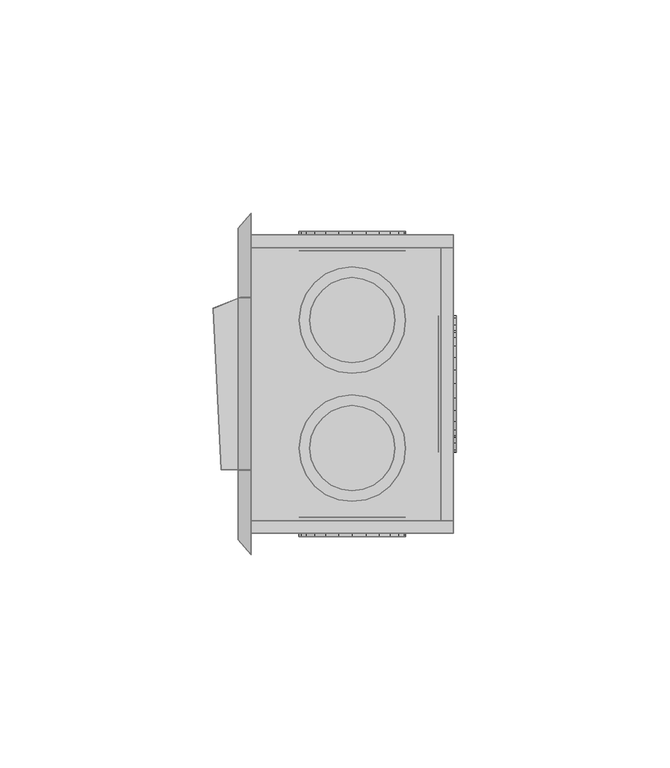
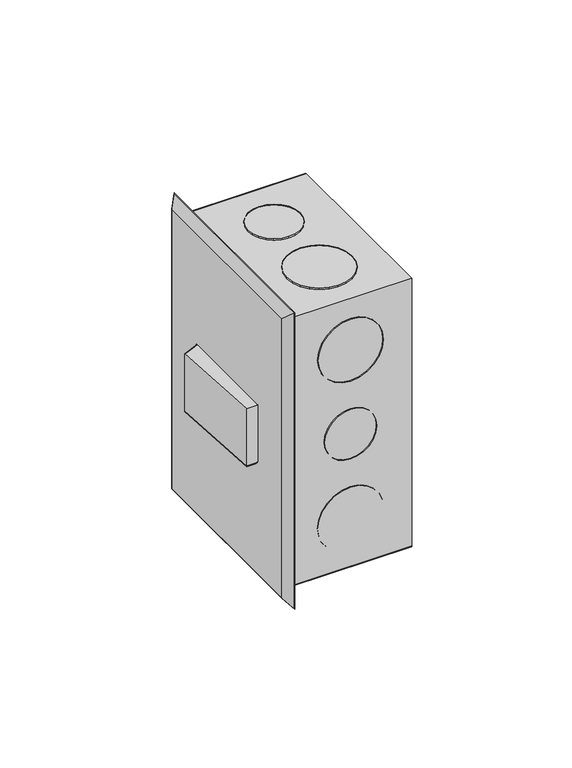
"""IFC4 building model written with IfcOpenShell, lengths in millimetres: proxy geometry,  210597 :  210597."""

from ifc_helpers import new_model, si_unit, origin, place, context, project, spatial, triangles, source, transform, mapped, element, save


def generic_models_13747dfe(model_context):
    return source(origin(), model_context, "Body", "Tessellation", [
        triangles([(12876.6000732, 15867.6000641, 1254.3000378), (12876.6000732, 15870.599881, 1148.7000154), (12876.6000732, 15867.6000641, 1145.6999805), (12876.6000732, 15870.599881, 1251.2999302), (12876.6000732, 15937.6004425, 1254.3000378), (12876.6000732, 15934.5994629, 1251.2999302), (12876.6000732, 15937.6004425, 1145.6999805), (12876.6000732, 15934.5994629, 1148.7000154), (12924.0994995, 15870.599881, 1251.2999302), (12924.0994995, 15870.599881, 1148.7000154), (12924.0994995, 15937.6004425, 1254.3000378), (12924.0994995, 15937.6004425, 1145.6999805), (12924.0994995, 15934.5994629, 1251.2999302), (12924.0994995, 15867.6000641, 1145.6999805), (12924.0994995, 15934.5994629, 1148.7000154), (12924.0994995, 15867.6000641, 1254.3000378), (12921.0996826, 15870.599881, 1251.2999302), (12921.0996826, 15934.5994629, 1148.7000154), (12921.0996826, 15870.599881, 1148.7000154), (12921.0996826, 15934.5994629, 1251.2999302), (12920.5997131, 15888.699939, 1191.9999887), (12920.5997131, 15894.5995789, 1186.0999855), (12920.5997131, 15891.2997803, 1188.6999722), (12920.5997131, 15887.1000366, 1195.8999687), (12920.5997131, 15898.4005096, 1184.5000105), (12920.5997131, 15886.6000671, 1200.0000092), (12920.5997131, 15902.6002533, 1183.9999683), (12920.5997131, 15887.1000366, 1204.0999769), (12920.5997131, 15906.7000031, 1184.5000105), (12920.5997131, 15888.699939, 1208.0000296), (12920.5997131, 15910.599765, 1186.0999855), (12920.5997131, 15891.2997803, 1211.2999735), (12920.5997131, 15913.8995636, 1188.6999722), (12920.5997131, 15894.5995789, 1213.9000328), (12920.5997131, 15916.4005737, 1191.9999887), (12920.5997131, 15898.4005096, 1215.5000078), (12920.5997131, 15918.0004761, 1195.8999687), (12920.5997131, 15902.6002533, 1215.9999773), (12920.5997131, 15918.6004395, 1200.0000092), (12920.5997131, 15906.7000031, 1215.5000078), (12920.5997131, 15918.0004761, 1204.0999769), (12920.5997131, 15910.599765, 1213.9000328), (12920.5997131, 15916.4005737, 1208.0000296), (12920.5997131, 15913.8995636, 1211.2999735), (12924.7994568, 15906.7000031, 1184.5000105), (12924.7994568, 15902.6002533, 1183.9999683), (12924.7994568, 15898.4005096, 1184.5000105), (12924.7994568, 15894.5995789, 1186.0999855), (12924.7994568, 15891.2997803, 1188.6999722), (12924.7994568, 15888.699939, 1191.9999887), (12924.7994568, 15887.1000366, 1195.8999687), (12924.7994568, 15886.6000671, 1200.0000092), (12924.7994568, 15887.1000366, 1204.0999769), (12924.7994568, 15888.699939, 1208.0000296), (12924.7994568, 15891.2997803, 1211.2999735), (12924.7994568, 15894.5995789, 1213.9000328), (12924.7994568, 15898.4005096, 1215.5000078), (12924.7994568, 15902.6002533, 1215.9999773), (12924.7994568, 15906.7000031, 1215.5000078), (12924.7994568, 15910.599765, 1213.9000328), (12924.7994568, 15913.8995636, 1211.2999735), (12924.7994568, 15916.4005737, 1208.0000296), (12924.7994568, 15918.0004761, 1204.0999769), (12924.7994568, 15918.6004395, 1200.0000092), (12924.7994568, 15918.0004761, 1195.8999687), (12924.7994568, 15916.4005737, 1191.9999887), (12924.7994568, 15913.8995636, 1188.6999722), (12924.7994568, 15910.599765, 1186.0999855), (12920.5997131, 15891.6997559, 1227.8000565), (12920.5997131, 15896.2994751, 1223.2000465), (12920.5997131, 15893.6996338, 1225.2000698), (12920.5997131, 15890.4998291, 1230.8000187), (12920.5997131, 15899.3004547, 1221.8999805), (12920.5997131, 15890.0998535, 1233.9999687), (12920.5997131, 15902.6002533, 1221.500005), (12920.5997131, 15890.4998291, 1237.2000641), (12920.5997131, 15905.800058, 1221.8999805), (12920.5997131, 15891.6997559, 1240.3000202), (12920.5997131, 15908.7998749, 1223.2000465), (12920.5997131, 15893.6996338, 1242.800013), (12920.5997131, 15911.3997162, 1225.2000698), (12920.5997131, 15913.3995941, 1227.8000565), (12920.5997131, 15896.2994751, 1244.8000362), (12920.5997131, 15899.3004547, 1246.0999569), (12920.5997131, 15914.5995209, 1230.8000187), (12920.5997131, 15902.6002533, 1246.4999325), (12920.5997131, 15915.0994904, 1233.9999687), (12920.5997131, 15905.800058, 1246.0999569), (12920.5997131, 15914.5995209, 1237.2000641), (12920.5997131, 15913.3995941, 1240.3000202), (12920.5997131, 15908.7998749, 1244.8000362), (12920.5997131, 15911.3997162, 1242.800013), (12924.7994568, 15914.5995209, 1230.8000187), (12924.7994568, 15913.3995941, 1227.8000565), (12924.7994568, 15911.3997162, 1225.2000698), (12924.7994568, 15908.7998749, 1223.2000465), (12924.7994568, 15905.800058, 1221.8999805), (12924.7994568, 15902.6002533, 1221.500005), (12924.7994568, 15899.3004547, 1221.8999805), (12924.7994568, 15896.2994751, 1223.2000465), (12924.7994568, 15893.6996338, 1225.2000698), (12924.7994568, 15891.6997559, 1227.8000565), (12924.7994568, 15890.4998291, 1230.8000187), (12924.7994568, 15890.0998535, 1233.9999687), (12924.7994568, 15890.4998291, 1237.2000641), (12924.7994568, 15891.6997559, 1240.3000202), (12924.7994568, 15893.6996338, 1242.800013), (12924.7994568, 15896.2994751, 1244.8000362), (12924.7994568, 15899.3004547, 1246.0999569), (12924.7994568, 15902.6002533, 1246.4999325), (12924.7994568, 15905.800058, 1246.0999569), (12924.7994568, 15908.7998749, 1244.8000362), (12924.7994568, 15911.3997162, 1242.800013), (12924.7994568, 15913.3995941, 1240.3000202), (12924.7994568, 15914.5995209, 1237.2000641), (12924.7994568, 15915.0994904, 1233.9999687), (12924.7994568, 15896.2994751, 1155.1999821), (12924.7994568, 15891.6997559, 1159.6999981), (12924.7994568, 15893.6996338, 1157.2000053), (12924.7994568, 15899.3004547, 1153.8999887), (12924.7994568, 15890.4998291, 1162.8000269), (12924.7994568, 15902.6002533, 1153.5000132), (12924.7994568, 15890.0998535, 1165.9999769), (12924.7994568, 15905.800058, 1153.8999887), (12924.7994568, 15890.4998291, 1169.1999996), (12924.7994568, 15908.7998749, 1155.1999821), (12924.7994568, 15891.6997559, 1172.2000345), (12924.7994568, 15911.3997162, 1157.2000053), (12924.7994568, 15893.6996338, 1174.8000212), (12924.7994568, 15913.3995941, 1159.6999981), (12924.7994568, 15896.2994751, 1176.7999718), (12924.7994568, 15914.5995209, 1162.8000269), (12924.7994568, 15899.3004547, 1178.0999651), (12924.7994568, 15902.6002533, 1178.5000134), (12924.7994568, 15915.0994904, 1165.9999769), (12924.7994568, 15914.5995209, 1169.1999996), (12924.7994568, 15905.800058, 1178.0999651), (12924.7994568, 15913.3995941, 1172.2000345), (12924.7994568, 15908.7998749, 1176.7999718), (12924.7994568, 15911.3997162, 1174.8000212), (12920.5997131, 15899.3004547, 1178.0999651), (12920.5997131, 15902.6002533, 1178.5000134), (12920.5997131, 15896.2994751, 1176.7999718), (12920.5997131, 15893.6996338, 1174.8000212), (12920.5997131, 15891.6997559, 1172.2000345), (12920.5997131, 15890.4998291, 1169.1999996), (12920.5997131, 15890.0998535, 1165.9999769), (12920.5997131, 15890.4998291, 1162.8000269), (12920.5997131, 15891.6997559, 1159.6999981), (12920.5997131, 15893.6996338, 1157.2000053), (12920.5997131, 15896.2994751, 1155.1999821), (12920.5997131, 15899.3004547, 1153.8999887), (12920.5997131, 15902.6002533, 1153.5000132), (12920.5997131, 15905.800058, 1153.8999887), (12920.5997131, 15908.7998749, 1155.1999821), (12920.5997131, 15911.3997162, 1157.2000053), (12920.5997131, 15913.3995941, 1159.6999981), (12920.5997131, 15914.5995209, 1162.8000269), (12920.5997131, 15915.0994904, 1165.9999769), (12920.5997131, 15914.5995209, 1169.1999996), (12920.5997131, 15913.3995941, 1172.2000345), (12920.5997131, 15911.3997162, 1174.8000212), (12920.5997131, 15908.7998749, 1176.7999718), (12920.5997131, 15905.800058, 1178.0999651), (12905.2994843, 15871.3998322, 1191.3000315), (12909.0004211, 15871.3998322, 1195.0000237), (12907.4005188, 15871.3998322, 1192.9000065), (12910.0003601, 15871.3998322, 1197.4000225), (12902.8996307, 15871.3998322, 1190.3000198), (12910.3003418, 15871.3998322, 1200.0000092), (12900.2997894, 15871.3998322, 1189.9999655), (12897.799942, 15871.3998322, 1190.3000198), (12910.0003601, 15871.3998322, 1202.5999958), (12909.0004211, 15871.3998322, 1204.9999947), (12895.3000946, 15871.3998322, 1191.3000315), (12907.4005188, 15871.3998322, 1207.1000118), (12893.3002167, 15871.3998322, 1192.9000065), (12891.7003143, 15871.3998322, 1195.0000237), (12905.2994843, 15871.3998322, 1208.6999868), (12890.7003754, 15871.3998322, 1197.4000225), (12902.8996307, 15871.3998322, 1209.6999985), (12890.3003998, 15871.3998322, 1200.0000092), (12900.2997894, 15871.3998322, 1209.9999802), (12890.7003754, 15871.3998322, 1202.5999958), (12897.799942, 15871.3998322, 1209.6999985), (12895.3000946, 15871.3998322, 1208.6999868), (12891.7003143, 15871.3998322, 1204.9999947), (12893.3002167, 15871.3998322, 1207.1000118), (12900.2997894, 15866.8001129, 1189.9999655), (12902.8996307, 15866.8001129, 1190.3000198), (12897.799942, 15866.8001129, 1190.3000198), (12895.3000946, 15866.8001129, 1191.3000315), (12893.3002167, 15866.8001129, 1192.9000065), (12891.7003143, 15866.8001129, 1195.0000237), (12890.7003754, 15866.8001129, 1197.4000225), (12890.3003998, 15866.8001129, 1200.0000092), (12890.7003754, 15866.8001129, 1202.5999958), (12891.7003143, 15866.8001129, 1204.9999947), (12893.3002167, 15866.8001129, 1207.1000118), (12895.3000946, 15866.8001129, 1208.6999868), (12897.799942, 15866.8001129, 1209.6999985), (12900.2997894, 15866.8001129, 1209.9999802), (12902.8996307, 15866.8001129, 1209.6999985), (12905.2994843, 15866.8001129, 1208.6999868), (12907.4005188, 15866.8001129, 1207.1000118), (12909.0004211, 15866.8001129, 1204.9999947), (12910.0003601, 15866.8001129, 1202.5999958), (12910.3003418, 15866.8001129, 1200.0000092), (12910.0003601, 15866.8001129, 1197.4000225), (12909.0004211, 15866.8001129, 1195.0000237), (12907.4005188, 15866.8001129, 1192.9000065), (12905.2994843, 15866.8001129, 1191.3000315), (12906.6005676, 15871.3998322, 1223.2000465), (12911.2002869, 15871.3998322, 1227.8000565), (12909.2004089, 15871.3998322, 1225.2000698), (12903.599588, 15871.3998322, 1221.8999805), (12912.4002136, 15871.3998322, 1230.8000187), (12912.8001892, 15871.3998322, 1233.9999687), (12900.2997894, 15871.3998322, 1221.500005), (12897.0999847, 15871.3998322, 1221.8999805), (12912.4002136, 15871.3998322, 1237.2000641), (12911.2002869, 15871.3998322, 1240.3000202), (12894.1001678, 15871.3998322, 1223.2000465), (12891.5003265, 15871.3998322, 1225.2000698), (12909.2004089, 15871.3998322, 1242.800013), (12889.5004486, 15871.3998322, 1227.8000565), (12906.6005676, 15871.3998322, 1244.8000362), (12888.3005219, 15871.3998322, 1230.8000187), (12903.599588, 15871.3998322, 1246.0999569), (12887.8005524, 15871.3998322, 1233.9999687), (12900.2997894, 15871.3998322, 1246.4999325), (12888.3005219, 15871.3998322, 1237.2000641), (12897.0999847, 15871.3998322, 1246.0999569), (12889.5004486, 15871.3998322, 1240.3000202), (12894.1001678, 15871.3998322, 1244.8000362), (12891.5003265, 15871.3998322, 1242.800013), (12900.2997894, 15866.8001129, 1221.500005), (12903.599588, 15866.8001129, 1221.8999805), (12897.0999847, 15866.8001129, 1221.8999805), (12894.1001678, 15866.8001129, 1223.2000465), (12891.5003265, 15866.8001129, 1225.2000698), (12889.5004486, 15866.8001129, 1227.8000565), (12888.3005219, 15866.8001129, 1230.8000187), (12887.8005524, 15866.8001129, 1233.9999687), (12888.3005219, 15866.8001129, 1237.2000641), (12889.5004486, 15866.8001129, 1240.3000202), (12891.5003265, 15866.8001129, 1242.800013), (12894.1001678, 15866.8001129, 1244.8000362), (12897.0999847, 15866.8001129, 1246.0999569), (12900.2997894, 15866.8001129, 1246.4999325), (12903.599588, 15866.8001129, 1246.0999569), (12906.6005676, 15866.8001129, 1244.8000362), (12909.2004089, 15866.8001129, 1242.800013), (12911.2002869, 15866.8001129, 1240.3000202), (12912.4002136, 15866.8001129, 1237.2000641), (12912.8001892, 15866.8001129, 1233.9999687), (12912.4002136, 15866.8001129, 1230.8000187), (12911.2002869, 15866.8001129, 1227.8000565), (12909.2004089, 15866.8001129, 1225.2000698), (12906.6005676, 15866.8001129, 1223.2000465), (12911.2002869, 15866.8001129, 1159.6999981), (12906.6005676, 15866.8001129, 1155.1999821), (12909.2004089, 15866.8001129, 1157.2000053), (12912.4002136, 15866.8001129, 1162.8000269), (12903.599588, 15866.8001129, 1153.8999887), (12912.8001892, 15866.8001129, 1165.9999769), (12900.2997894, 15866.8001129, 1153.5000132), (12912.4002136, 15866.8001129, 1169.1999996), (12897.0999847, 15866.8001129, 1153.8999887), (12911.2002869, 15866.8001129, 1172.2000345), (12894.1001678, 15866.8001129, 1155.1999821), (12909.2004089, 15866.8001129, 1174.8000212), (12891.5003265, 15866.8001129, 1157.2000053), (12906.6005676, 15866.8001129, 1176.7999718), (12889.5004486, 15866.8001129, 1159.6999981), (12903.599588, 15866.8001129, 1178.0999651), (12888.3005219, 15866.8001129, 1162.8000269), (12900.2997894, 15866.8001129, 1178.5000134), (12887.8005524, 15866.8001129, 1165.9999769), (12897.0999847, 15866.8001129, 1178.0999651), (12888.3005219, 15866.8001129, 1169.1999996), (12894.1001678, 15866.8001129, 1176.7999718), (12889.5004486, 15866.8001129, 1172.2000345), (12891.5003265, 15866.8001129, 1174.8000212), (12903.599588, 15871.3998322, 1178.0999651), (12900.2997894, 15871.3998322, 1178.5000134), (12897.0999847, 15871.3998322, 1178.0999651), (12894.1001678, 15871.3998322, 1176.7999718), (12891.5003265, 15871.3998322, 1174.8000212), (12889.5004486, 15871.3998322, 1172.2000345), (12888.3005219, 15871.3998322, 1169.1999996), (12887.8005524, 15871.3998322, 1165.9999769), (12888.3005219, 15871.3998322, 1162.8000269), (12889.5004486, 15871.3998322, 1159.6999981), (12891.5003265, 15871.3998322, 1157.2000053), (12894.1001678, 15871.3998322, 1155.1999821), (12897.0999847, 15871.3998322, 1153.8999887), (12900.2997894, 15871.3998322, 1153.5000132), (12903.599588, 15871.3998322, 1153.8999887), (12906.6005676, 15871.3998322, 1155.1999821), (12909.2004089, 15871.3998322, 1157.2000053), (12911.2002869, 15871.3998322, 1159.6999981), (12912.4002136, 15871.3998322, 1162.8000269), (12912.8001892, 15871.3998322, 1165.9999769), (12912.4002136, 15871.3998322, 1169.1999996), (12911.2002869, 15871.3998322, 1172.2000345), (12909.2004089, 15871.3998322, 1174.8000212), (12906.6005676, 15871.3998322, 1176.7999718), (12909.0004211, 15933.7995117, 1195.0000237), (12905.2994843, 15933.7995117, 1191.3000315), (12907.4005188, 15933.7995117, 1192.9000065), (12910.0003601, 15933.7995117, 1197.4000225), (12902.8996307, 15933.7995117, 1190.3000198), (12910.3003418, 15933.7995117, 1200.0000092), (12900.2997894, 15933.7995117, 1189.9999655), (12910.0003601, 15933.7995117, 1202.5999958), (12897.799942, 15933.7995117, 1190.3000198), (12909.0004211, 15933.7995117, 1204.9999947), (12895.3000946, 15933.7995117, 1191.3000315), (12907.4005188, 15933.7995117, 1207.1000118), (12893.3002167, 15933.7995117, 1192.9000065), (12905.2994843, 15933.7995117, 1208.6999868), (12891.7003143, 15933.7995117, 1195.0000237), (12902.8996307, 15933.7995117, 1209.6999985), (12890.7003754, 15933.7995117, 1197.4000225), (12890.3003998, 15933.7995117, 1200.0000092), (12900.2997894, 15933.7995117, 1209.9999802), (12897.799942, 15933.7995117, 1209.6999985), (12890.7003754, 15933.7995117, 1202.5999958), (12895.3000946, 15933.7995117, 1208.6999868), (12891.7003143, 15933.7995117, 1204.9999947), (12893.3002167, 15933.7995117, 1207.1000118), (12902.8996307, 15938.4003937, 1209.6999985), (12900.2997894, 15938.4003937, 1209.9999802), (12897.799942, 15938.4003937, 1209.6999985), (12895.3000946, 15938.4003937, 1208.6999868), (12893.3002167, 15938.4003937, 1207.1000118), (12891.7003143, 15938.4003937, 1204.9999947), (12890.7003754, 15938.4003937, 1202.5999958), (12890.3003998, 15938.4003937, 1200.0000092), (12890.7003754, 15938.4003937, 1197.4000225), (12891.7003143, 15938.4003937, 1195.0000237), (12893.3002167, 15938.4003937, 1192.9000065), (12895.3000946, 15938.4003937, 1191.3000315), (12897.799942, 15938.4003937, 1190.3000198), (12900.2997894, 15938.4003937, 1189.9999655), (12902.8996307, 15938.4003937, 1190.3000198), (12905.2994843, 15938.4003937, 1191.3000315), (12907.4005188, 15938.4003937, 1192.9000065), (12909.0004211, 15938.4003937, 1195.0000237), (12910.0003601, 15938.4003937, 1197.4000225), (12910.3003418, 15938.4003937, 1200.0000092), (12910.0003601, 15938.4003937, 1202.5999958), (12909.0004211, 15938.4003937, 1204.9999947), (12907.4005188, 15938.4003937, 1207.1000118), (12905.2994843, 15938.4003937, 1208.6999868), (12911.2002869, 15933.7995117, 1159.6999981), (12906.6005676, 15933.7995117, 1155.1999821), (12909.2004089, 15933.7995117, 1157.2000053), (12912.4002136, 15933.7995117, 1162.8000269), (12903.599588, 15933.7995117, 1153.8999887), (12912.8001892, 15933.7995117, 1165.9999769), (12900.2997894, 15933.7995117, 1153.5000132), (12912.4002136, 15933.7995117, 1169.1999996), (12897.0999847, 15933.7995117, 1153.8999887), (12911.2002869, 15933.7995117, 1172.2000345), (12894.1001678, 15933.7995117, 1155.1999821), (12909.2004089, 15933.7995117, 1174.8000212), (12891.5003265, 15933.7995117, 1157.2000053), (12906.6005676, 15933.7995117, 1176.7999718), (12889.5004486, 15933.7995117, 1159.6999981), (12903.599588, 15933.7995117, 1178.0999651), (12888.3005219, 15933.7995117, 1162.8000269), (12900.2997894, 15933.7995117, 1178.5000134), (12887.8005524, 15933.7995117, 1165.9999769), (12897.0999847, 15933.7995117, 1178.0999651), (12888.3005219, 15933.7995117, 1169.1999996), (12894.1001678, 15933.7995117, 1176.7999718), (12889.5004486, 15933.7995117, 1172.2000345), (12891.5003265, 15933.7995117, 1174.8000212), (12903.599588, 15938.4003937, 1178.0999651), (12900.2997894, 15938.4003937, 1178.5000134), (12897.0999847, 15938.4003937, 1178.0999651), (12894.1001678, 15938.4003937, 1176.7999718), (12891.5003265, 15938.4003937, 1174.8000212), (12889.5004486, 15938.4003937, 1172.2000345), (12888.3005219, 15938.4003937, 1169.1999996), (12887.8005524, 15938.4003937, 1165.9999769), (12888.3005219, 15938.4003937, 1162.8000269), (12889.5004486, 15938.4003937, 1159.6999981), (12891.5003265, 15938.4003937, 1157.2000053), (12894.1001678, 15938.4003937, 1155.1999821), (12897.0999847, 15938.4003937, 1153.8999887), (12900.2997894, 15938.4003937, 1153.5000132), (12903.599588, 15938.4003937, 1153.8999887), (12906.6005676, 15938.4003937, 1155.1999821), (12909.2004089, 15938.4003937, 1157.2000053), (12911.2002869, 15938.4003937, 1159.6999981), (12912.4002136, 15938.4003937, 1162.8000269), (12912.8001892, 15938.4003937, 1165.9999769), (12912.4002136, 15938.4003937, 1169.1999996), (12911.2002869, 15938.4003937, 1172.2000345), (12909.2004089, 15938.4003937, 1174.8000212), (12906.6005676, 15938.4003937, 1176.7999718), (12906.6005676, 15938.4003937, 1223.2000465), (12911.2002869, 15938.4003937, 1227.8000565), (12909.2004089, 15938.4003937, 1225.2000698), (12903.599588, 15938.4003937, 1221.8999805), (12912.4002136, 15938.4003937, 1230.8000187), (12912.8001892, 15938.4003937, 1233.9999687), (12900.2997894, 15938.4003937, 1221.500005), (12897.0999847, 15938.4003937, 1221.8999805), (12912.4002136, 15938.4003937, 1237.2000641), (12911.2002869, 15938.4003937, 1240.3000202), (12894.1001678, 15938.4003937, 1223.2000465), (12891.5003265, 15938.4003937, 1225.2000698), (12909.2004089, 15938.4003937, 1242.800013), (12889.5004486, 15938.4003937, 1227.8000565), (12906.6005676, 15938.4003937, 1244.8000362), (12888.3005219, 15938.4003937, 1230.8000187), (12903.599588, 15938.4003937, 1246.0999569), (12887.8005524, 15938.4003937, 1233.9999687), (12900.2997894, 15938.4003937, 1246.4999325), (12888.3005219, 15938.4003937, 1237.2000641), (12897.0999847, 15938.4003937, 1246.0999569), (12889.5004486, 15938.4003937, 1240.3000202), (12894.1001678, 15938.4003937, 1244.8000362), (12891.5003265, 15938.4003937, 1242.800013), (12900.2997894, 15933.7995117, 1221.500005), (12903.599588, 15933.7995117, 1221.8999805), (12897.0999847, 15933.7995117, 1221.8999805), (12894.1001678, 15933.7995117, 1223.2000465), (12891.5003265, 15933.7995117, 1225.2000698), (12889.5004486, 15933.7995117, 1227.8000565), (12888.3005219, 15933.7995117, 1230.8000187), (12887.8005524, 15933.7995117, 1233.9999687), (12888.3005219, 15933.7995117, 1237.2000641), (12889.5004486, 15933.7995117, 1240.3000202), (12891.5003265, 15933.7995117, 1242.800013), (12894.1001678, 15933.7995117, 1244.8000362), (12897.0999847, 15933.7995117, 1246.0999569), (12900.2997894, 15933.7995117, 1246.4999325), (12903.599588, 15933.7995117, 1246.0999569), (12906.6005676, 15933.7995117, 1244.8000362), (12909.2004089, 15933.7995117, 1242.800013), (12911.2002869, 15933.7995117, 1240.3000202), (12912.4002136, 15933.7995117, 1237.2000641), (12912.8001892, 15933.7995117, 1233.9999687), (12912.4002136, 15933.7995117, 1230.8000187), (12911.2002869, 15933.7995117, 1227.8000565), (12909.2004089, 15933.7995117, 1225.2000698), (12906.6005676, 15933.7995117, 1223.2000465), (12906.6005676, 15876.6995087, 1250.9999485), (12911.2002869, 15881.3003906, 1250.9999485), (12909.2004089, 15878.7005493, 1250.9999485), (12903.599588, 15875.4995819, 1250.9999485), (12912.4002136, 15884.3002075, 1250.9999485), (12912.8001892, 15887.6000061, 1250.9999485), (12900.2997894, 15875.0996063, 1250.9999485), (12897.0999847, 15875.4995819, 1250.9999485), (12912.4002136, 15890.7998108, 1250.9999485), (12911.2002869, 15893.7996277, 1250.9999485), (12894.1001678, 15876.6995087, 1250.9999485), (12891.5003265, 15878.7005493, 1250.9999485), (12909.2004089, 15896.399469, 1250.9999485), (12906.6005676, 15898.4005096, 1250.9999485), (12889.5004486, 15881.3003906, 1250.9999485), (12888.3005219, 15884.3002075, 1250.9999485), (12903.599588, 15899.6004364, 1250.9999485), (12887.8005524, 15887.6000061, 1250.9999485), (12900.2997894, 15900.1004059, 1250.9999485), (12888.3005219, 15890.7998108, 1250.9999485), (12897.0999847, 15899.6004364, 1250.9999485), (12894.1001678, 15898.4005096, 1250.9999485), (12889.5004486, 15893.7996277, 1250.9999485), (12891.5003265, 15896.399469, 1250.9999485), (12912.8001892, 15887.6000061, 1255.1999828), (12912.4002136, 15890.7998108, 1255.1999828), (12912.4002136, 15884.3002075, 1255.1999828), (12911.2002869, 15881.3003906, 1255.1999828), (12909.2004089, 15878.7005493, 1255.1999828), (12906.6005676, 15876.6995087, 1255.1999828), (12903.599588, 15875.4995819, 1255.1999828), (12900.2997894, 15875.0996063, 1255.1999828), (12897.0999847, 15875.4995819, 1255.1999828), (12894.1001678, 15876.6995087, 1255.1999828), (12891.5003265, 15878.7005493, 1255.1999828), (12889.5004486, 15881.3003906, 1255.1999828), (12888.3005219, 15884.3002075, 1255.1999828), (12887.8005524, 15887.6000061, 1255.1999828), (12888.3005219, 15890.7998108, 1255.1999828), (12889.5004486, 15893.7996277, 1255.1999828), (12891.5003265, 15896.399469, 1255.1999828), (12894.1001678, 15898.4005096, 1255.1999828), (12897.0999847, 15899.6004364, 1255.1999828), (12900.2997894, 15900.1004059, 1255.1999828), (12903.599588, 15899.6004364, 1255.1999828), (12906.6005676, 15898.4005096, 1255.1999828), (12909.2004089, 15896.399469, 1255.1999828), (12911.2002869, 15893.7996277, 1255.1999828), (12905.2994843, 15908.8998688, 1250.9999485), (12909.0004211, 15912.5996429, 1250.9999485), (12907.4005188, 15910.4997711, 1250.9999485), (12910.0003601, 15914.9994965, 1250.9999485), (12902.8996307, 15907.8999298, 1250.9999485), (12910.3003418, 15917.6005005, 1250.9999485), (12900.2997894, 15907.5999481, 1250.9999485), (12897.799942, 15907.8999298, 1250.9999485), (12910.0003601, 15920.2003418, 1250.9999485), (12909.0004211, 15922.6001953, 1250.9999485), (12895.3000946, 15908.8998688, 1250.9999485), (12907.4005188, 15924.6000732, 1250.9999485), (12893.3002167, 15910.4997711, 1250.9999485), (12891.7003143, 15912.5996429, 1250.9999485), (12905.2994843, 15926.1999756, 1250.9999485), (12902.8996307, 15927.1999146, 1250.9999485), (12890.7003754, 15914.9994965, 1250.9999485), (12890.3003998, 15917.6005005, 1250.9999485), (12900.2997894, 15927.5998901, 1250.9999485), (12890.7003754, 15920.2003418, 1250.9999485), (12897.799942, 15927.1999146, 1250.9999485), (12891.7003143, 15922.6001953, 1250.9999485), (12895.3000946, 15926.1999756, 1250.9999485), (12893.3002167, 15924.6000732, 1250.9999485), (12910.0003601, 15920.2003418, 1255.1999828), (12909.0004211, 15922.6001953, 1255.1999828), (12910.3003418, 15917.6005005, 1255.1999828), (12910.0003601, 15914.9994965, 1255.1999828), (12909.0004211, 15912.5996429, 1255.1999828), (12907.4005188, 15910.4997711, 1255.1999828), (12905.2994843, 15908.8998688, 1255.1999828), (12902.8996307, 15907.8999298, 1255.1999828), (12900.2997894, 15907.5999481, 1255.1999828), (12897.799942, 15907.8999298, 1255.1999828), (12895.3000946, 15908.8998688, 1255.1999828), (12893.3002167, 15910.4997711, 1255.1999828), (12891.7003143, 15912.5996429, 1255.1999828), (12890.7003754, 15914.9994965, 1255.1999828), (12890.3003998, 15917.6005005, 1255.1999828), (12890.7003754, 15920.2003418, 1255.1999828), (12891.7003143, 15922.6001953, 1255.1999828), (12893.3002167, 15924.6000732, 1255.1999828), (12895.3000946, 15926.1999756, 1255.1999828), (12897.799942, 15927.1999146, 1255.1999828), (12900.2997894, 15927.5998901, 1255.1999828), (12902.8996307, 15927.1999146, 1255.1999828), (12905.2994843, 15926.1999756, 1255.1999828), (12907.4005188, 15924.6000732, 1255.1999828), (12905.2994843, 15878.9005371, 1144.8000355), (12909.0004211, 15882.6003113, 1144.8000355), (12907.4005188, 15880.5004395, 1144.8000355), (12910.0003601, 15885.0001648, 1144.8000355), (12902.8996307, 15877.8994354, 1144.8000355), (12910.3003418, 15887.6000061, 1144.8000355), (12900.2997894, 15877.5994537, 1144.8000355), (12897.799942, 15877.8994354, 1144.8000355), (12910.0003601, 15890.1998474, 1144.8000355), (12909.0004211, 15892.5997009, 1144.8000355), (12895.3000946, 15878.9005371, 1144.8000355), (12907.4005188, 15894.5995789, 1144.8000355), (12893.3002167, 15880.5004395, 1144.8000355), (12891.7003143, 15882.6003113, 1144.8000355), (12905.2994843, 15896.1994812, 1144.8000355), (12902.8996307, 15897.1994202, 1144.8000355), (12890.7003754, 15885.0001648, 1144.8000355), (12890.3003998, 15887.6000061, 1144.8000355), (12900.2997894, 15897.6005585, 1144.8000355), (12890.7003754, 15890.1998474, 1144.8000355), (12897.799942, 15897.1994202, 1144.8000355), (12891.7003143, 15892.5997009, 1144.8000355), (12895.3000946, 15896.1994812, 1144.8000355), (12893.3002167, 15894.5995789, 1144.8000355), (12910.0003601, 15885.0001648, 1149.099991), (12910.3003418, 15887.6000061, 1149.099991), (12909.0004211, 15882.6003113, 1149.099991), (12907.4005188, 15880.5004395, 1149.099991), (12905.2994843, 15878.9005371, 1149.099991), (12902.8996307, 15877.8994354, 1149.099991), (12900.2997894, 15877.5994537, 1149.099991), (12897.799942, 15877.8994354, 1149.099991), (12895.3000946, 15878.9005371, 1149.099991), (12893.3002167, 15880.5004395, 1149.099991), (12891.7003143, 15882.6003113, 1149.099991), (12890.7003754, 15885.0001648, 1149.099991), (12890.3003998, 15887.6000061, 1149.099991), (12890.7003754, 15890.1998474, 1149.099991), (12891.7003143, 15892.5997009, 1149.099991), (12893.3002167, 15894.5995789, 1149.099991), (12895.3000946, 15896.1994812, 1149.099991), (12897.799942, 15897.1994202, 1149.099991), (12900.2997894, 15897.6005585, 1149.099991), (12902.8996307, 15897.1994202, 1149.099991), (12905.2994843, 15896.1994812, 1149.099991), (12907.4005188, 15894.5995789, 1149.099991), (12909.0004211, 15892.5997009, 1149.099991), (12910.0003601, 15890.1998474, 1149.099991), (12906.6005676, 15906.7000031, 1144.8000355), (12911.2002869, 15911.2997223, 1144.8000355), (12909.2004089, 15908.699881, 1144.8000355), (12903.599588, 15905.5000763, 1144.8000355), (12912.4002136, 15914.2995392, 1144.8000355), (12912.8001892, 15917.6005005, 1144.8000355), (12900.2997894, 15905.1001007, 1144.8000355), (12897.0999847, 15905.5000763, 1144.8000355), (12912.4002136, 15920.8003052, 1144.8000355), (12911.2002869, 15923.8001221, 1144.8000355), (12894.1001678, 15906.7000031, 1144.8000355), (12891.5003265, 15908.699881, 1144.8000355), (12909.2004089, 15926.3999634, 1144.8000355), (12906.6005676, 15928.3998413, 1144.8000355), (12889.5004486, 15911.2997223, 1144.8000355), (12888.3005219, 15914.2995392, 1144.8000355), (12903.599588, 15929.5997681, 1144.8000355), (12887.8005524, 15917.6005005, 1144.8000355), (12900.2997894, 15930.0997375, 1144.8000355), (12888.3005219, 15920.8003052, 1144.8000355), (12897.0999847, 15929.5997681, 1144.8000355), (12894.1001678, 15928.3998413, 1144.8000355), (12889.5004486, 15923.8001221, 1144.8000355), (12891.5003265, 15926.3999634, 1144.8000355), (12912.4002136, 15920.8003052, 1149.099991), (12911.2002869, 15923.8001221, 1149.099991), (12912.8001892, 15917.6005005, 1149.099991), (12912.4002136, 15914.2995392, 1149.099991), (12911.2002869, 15911.2997223, 1149.099991), (12909.2004089, 15908.699881, 1149.099991), (12906.6005676, 15906.7000031, 1149.099991), (12903.599588, 15905.5000763, 1149.099991), (12900.2997894, 15905.1001007, 1149.099991), (12897.0999847, 15905.5000763, 1149.099991), (12894.1001678, 15906.7000031, 1149.099991), (12891.5003265, 15908.699881, 1149.099991), (12889.5004486, 15911.2997223, 1149.099991), (12888.3005219, 15914.2995392, 1149.099991), (12887.8005524, 15917.6005005, 1149.099991), (12888.3005219, 15920.8003052, 1149.099991), (12889.5004486, 15923.8001221, 1149.099991), (12891.5003265, 15926.3999634, 1149.099991), (12894.1001678, 15928.3998413, 1149.099991), (12897.0999847, 15929.5997681, 1149.099991), (12900.2997894, 15930.0997375, 1149.099991), (12903.599588, 15929.5997681, 1149.099991), (12906.6005676, 15928.3998413, 1149.099991), (12909.2004089, 15926.3999634, 1149.099991), (12876.6000732, 15942.6001373, 1139.9999651), (12876.6000732, 15882.4003235, 1188.2999966), (12876.6000732, 15862.6003693, 1139.9999651), (12876.6000732, 15922.8001831, 1188.2999966), (12876.6000732, 15942.6001373, 1259.9999805), (12876.6000732, 15922.8001831, 1211.7000217), (12876.6000732, 15862.6003693, 1259.9999805), (12876.6000732, 15882.4003235, 1211.7000217), (12873.6002563, 15922.8001831, 1188.2999966), (12873.6002563, 15922.8001831, 1211.7000217), (12873.6002563, 15882.4003235, 1188.2999966), (12873.6002563, 15882.4003235, 1211.7000217), (12873.6002563, 15866.1001556, 1143.4999695), (12873.6002563, 15866.1001556, 1256.5000488), (12873.6002563, 15939.100351, 1143.4999695), (12873.6002563, 15939.100351, 1256.5000488), (12869.6005005, 15882.5003174, 1188.1000088), (12876.6000732, 15922.900177, 1188.1000088), (12876.6000732, 15882.5003174, 1188.1000088), (12867.6994537, 15920.3003357, 1188.1000088), (12874.1002258, 15922.900177, 1188.1000088), (12876.6000732, 15882.5003174, 1211.500034), (12876.6000732, 15922.900177, 1211.500034), (12869.6005005, 15882.5003174, 1211.500034), (12867.6994537, 15920.3003357, 1211.500034), (12874.1002258, 15922.900177, 1211.500034)], [[1, 2, 3], [2, 1, 4], [5, 4, 1], [4, 5, 6], [3, 2, 7], [7, 2, 8], [7, 8, 6], [7, 6, 5], [2, 9, 10], [9, 2, 4], [7, 11, 12], [11, 7, 5], [4, 13, 9], [13, 4, 6], [3, 12, 14], [12, 3, 7], [13, 8, 15], [8, 13, 6], [16, 3, 14], [3, 16, 1], [15, 2, 10], [2, 15, 8], [11, 1, 16], [1, 11, 5], [12, 10, 14], [10, 12, 15], [11, 15, 12], [15, 11, 13], [14, 10, 16], [16, 10, 9], [16, 9, 13], [16, 13, 11], [17, 18, 19], [18, 17, 20], [18, 13, 15], [13, 18, 20], [19, 15, 10], [15, 19, 18], [9, 19, 10], [19, 9, 17], [13, 17, 9], [17, 13, 20], [15, 9, 10], [9, 15, 13], [21, 22, 23], [22, 21, 24], [25, 22, 24], [25, 24, 26], [27, 25, 26], [27, 26, 28], [29, 27, 28], [29, 28, 30], [31, 29, 30], [31, 30, 32], [31, 32, 33], [33, 32, 34], [33, 34, 35], [35, 34, 36], [35, 36, 37], [37, 36, 38], [37, 38, 39], [39, 38, 40], [39, 40, 41], [41, 40, 42], [41, 42, 43], [43, 42, 44], [27, 45, 46], [45, 27, 29], [25, 46, 47], [46, 25, 27], [22, 47, 48], [47, 22, 25], [23, 48, 49], [48, 23, 22], [50, 23, 49], [23, 50, 21], [51, 21, 50], [21, 51, 24], [52, 24, 51], [24, 52, 26], [53, 26, 52], [26, 53, 28], [54, 28, 53], [28, 54, 30], [55, 30, 54], [30, 55, 32], [56, 32, 55], [32, 56, 34], [57, 34, 56], [34, 57, 36], [58, 36, 57], [36, 58, 38], [59, 38, 58], [38, 59, 40], [60, 40, 59], [40, 60, 42], [61, 42, 60], [42, 61, 44], [43, 61, 62], [61, 43, 44], [41, 62, 63], [62, 41, 43], [39, 63, 64], [63, 39, 41], [37, 64, 65], [64, 37, 39], [35, 65, 66], [65, 35, 37], [33, 66, 67], [66, 33, 35], [31, 67, 68], [67, 31, 33], [29, 68, 45], [68, 29, 31], [48, 50, 49], [50, 48, 47], [51, 50, 47], [51, 47, 46], [52, 51, 46], [52, 46, 45], [53, 52, 45], [53, 45, 68], [54, 53, 68], [54, 68, 67], [54, 67, 55], [55, 67, 66], [55, 66, 56], [56, 66, 65], [56, 65, 57], [57, 65, 64], [57, 64, 58], [58, 64, 63], [58, 63, 59], [59, 63, 62], [59, 62, 60], [60, 62, 61], [69, 70, 71], [70, 69, 72], [73, 70, 72], [73, 72, 74], [75, 73, 74], [75, 74, 76], [77, 75, 76], [77, 76, 78], [79, 77, 78], [79, 78, 80], [81, 79, 80], [81, 80, 82], [82, 80, 83], [82, 83, 84], [82, 84, 85], [85, 84, 86], [85, 86, 87], [87, 86, 88], [87, 88, 89], [89, 88, 90], [90, 88, 91], [90, 91, 92], [82, 93, 94], [93, 82, 85], [81, 94, 95], [94, 81, 82], [79, 95, 96], [95, 79, 81], [77, 96, 97], [96, 77, 79], [75, 97, 98], [97, 75, 77], [73, 98, 99], [98, 73, 75], [70, 99, 100], [99, 70, 73], [71, 100, 101], [100, 71, 70], [102, 71, 101], [71, 102, 69], [103, 69, 102], [69, 103, 72], [104, 72, 103], [72, 104, 74], [105, 74, 104], [74, 105, 76], [106, 76, 105], [76, 106, 78], [107, 78, 106], [78, 107, 80], [108, 80, 107], [80, 108, 83], [109, 83, 108], [83, 109, 84], [110, 84, 109], [84, 110, 86], [111, 86, 110], [86, 111, 88], [112, 88, 111], [88, 112, 91], [113, 91, 112], [91, 113, 92], [90, 113, 114], [113, 90, 92], [89, 114, 115], [114, 89, 90], [87, 115, 116], [115, 87, 89], [85, 116, 93], [116, 85, 87], [100, 102, 101], [102, 100, 99], [103, 102, 99], [103, 99, 98], [104, 103, 98], [104, 98, 97], [105, 104, 97], [106, 105, 97], [106, 97, 96], [106, 96, 95], [106, 95, 107], [107, 95, 94], [107, 94, 108], [108, 94, 93], [108, 93, 109], [109, 93, 116], [109, 116, 110], [110, 116, 115], [110, 115, 111], [111, 115, 114], [111, 114, 112], [112, 114, 113], [117, 118, 119], [118, 117, 120], [121, 118, 120], [121, 120, 122], [123, 121, 122], [123, 122, 124], [125, 123, 124], [125, 124, 126], [127, 125, 126], [127, 126, 128], [127, 128, 129], [129, 128, 130], [129, 130, 131], [131, 130, 132], [131, 132, 133], [133, 132, 134], [134, 132, 135], [134, 135, 136], [134, 136, 137], [137, 136, 138], [137, 138, 139], [139, 138, 140], [134, 141, 133], [141, 134, 142], [133, 143, 131], [143, 133, 141], [131, 144, 129], [144, 131, 143], [129, 145, 127], [145, 129, 144], [127, 146, 125], [146, 127, 145], [125, 147, 123], [147, 125, 146], [123, 148, 121], [148, 123, 147], [121, 149, 118], [149, 121, 148], [118, 150, 119], [150, 118, 149], [150, 117, 119], [117, 150, 151], [151, 120, 117], [120, 151, 152], [152, 122, 120], [122, 152, 153], [153, 124, 122], [124, 153, 154], [154, 126, 124], [126, 154, 155], [155, 128, 126], [128, 155, 156], [156, 130, 128], [130, 156, 157], [157, 132, 130], [132, 157, 158], [158, 135, 132], [135, 158, 159], [159, 136, 135], [136, 159, 160], [160, 138, 136], [138, 160, 161], [161, 140, 138], [140, 161, 162], [140, 163, 139], [163, 140, 162], [139, 164, 137], [164, 139, 163], [137, 142, 134], [142, 137, 164], [149, 151, 150], [151, 149, 148], [152, 151, 148], [153, 152, 148], [153, 148, 147], [153, 147, 146], [154, 153, 146], [154, 146, 145], [155, 154, 145], [155, 145, 144], [156, 155, 144], [156, 144, 157], [157, 144, 143], [157, 143, 141], [157, 141, 158], [158, 141, 142], [158, 142, 159], [159, 142, 164], [159, 164, 160], [160, 164, 163], [160, 163, 161], [161, 163, 162], [165, 166, 167], [168, 166, 165], [168, 165, 169], [170, 168, 169], [170, 169, 171], [170, 171, 172], [173, 170, 172], [174, 173, 172], [174, 172, 175], [176, 174, 175], [176, 175, 177], [176, 177, 178], [176, 178, 179], [179, 178, 180], [179, 180, 181], [181, 180, 182], [181, 182, 183], [183, 182, 184], [183, 184, 185], [185, 184, 186], [186, 184, 187], [186, 187, 188], [189, 169, 190], [169, 189, 171], [191, 171, 189], [171, 191, 172], [192, 172, 191], [172, 192, 175], [193, 175, 192], [175, 193, 177], [194, 177, 193], [177, 194, 178], [195, 178, 194], [178, 195, 180], [196, 180, 195], [180, 196, 182], [197, 182, 196], [182, 197, 184], [198, 184, 197], [184, 198, 187], [199, 187, 198], [187, 199, 188], [186, 199, 200], [199, 186, 188], [185, 200, 201], [200, 185, 186], [183, 201, 202], [201, 183, 185], [181, 202, 203], [202, 181, 183], [179, 203, 204], [203, 179, 181], [176, 204, 205], [204, 176, 179], [174, 205, 206], [205, 174, 176], [173, 206, 207], [206, 173, 174], [170, 207, 208], [207, 170, 173], [168, 208, 209], [208, 168, 170], [166, 209, 210], [209, 166, 168], [167, 210, 211], [210, 167, 166], [212, 167, 211], [167, 212, 165], [190, 165, 212], [165, 190, 169], [210, 212, 211], [212, 210, 209], [190, 212, 209], [190, 209, 208], [189, 190, 208], [189, 208, 207], [191, 189, 207], [191, 207, 206], [192, 191, 206], [192, 206, 205], [192, 205, 193], [193, 205, 204], [193, 204, 194], [194, 204, 203], [194, 203, 195], [195, 203, 196], [196, 203, 202], [196, 202, 201], [196, 201, 197], [197, 201, 200], [197, 200, 198], [198, 200, 199], [213, 214, 215], [214, 213, 216], [217, 214, 216], [218, 217, 216], [218, 216, 219], [218, 219, 220], [221, 218, 220], [222, 221, 220], [222, 220, 223], [222, 223, 224], [222, 224, 225], [225, 224, 226], [225, 226, 227], [227, 226, 228], [227, 228, 229], [229, 228, 230], [229, 230, 231], [231, 230, 232], [231, 232, 233], [233, 232, 234], [233, 234, 235], [235, 234, 236], [237, 216, 238], [216, 237, 219], [239, 219, 237], [219, 239, 220], [240, 220, 239], [220, 240, 223], [241, 223, 240], [223, 241, 224], [242, 224, 241], [224, 242, 226], [243, 226, 242], [226, 243, 228], [244, 228, 243], [228, 244, 230], [245, 230, 244], [230, 245, 232], [246, 232, 245], [232, 246, 234], [247, 234, 246], [234, 247, 236], [235, 247, 248], [247, 235, 236], [233, 248, 249], [248, 233, 235], [231, 249, 250], [249, 231, 233], [229, 250, 251], [250, 229, 231], [227, 251, 252], [251, 227, 229], [225, 252, 253], [252, 225, 227], [222, 253, 254], [253, 222, 225], [221, 254, 255], [254, 221, 222], [218, 255, 256], [255, 218, 221], [217, 256, 257], [256, 217, 218], [214, 257, 258], [257, 214, 217], [215, 258, 259], [258, 215, 214], [260, 215, 259], [215, 260, 213], [238, 213, 260], [213, 238, 216], [258, 260, 259], [260, 258, 257], [238, 260, 257], [238, 257, 256], [237, 238, 256], [237, 256, 255], [239, 237, 255], [239, 255, 254], [240, 239, 254], [240, 254, 253], [241, 240, 253], [241, 253, 252], [241, 252, 242], [242, 252, 251], [242, 251, 243], [243, 251, 244], [244, 251, 250], [244, 250, 249], [244, 249, 245], [245, 249, 246], [246, 249, 248], [246, 248, 247], [261, 262, 263], [262, 261, 264], [265, 262, 264], [265, 264, 266], [267, 265, 266], [267, 266, 268], [269, 267, 268], [269, 268, 270], [271, 269, 270], [271, 270, 272], [273, 271, 272], [273, 272, 274], [273, 274, 275], [275, 274, 276], [275, 276, 277], [277, 276, 278], [277, 278, 279], [279, 278, 280], [279, 280, 281], [281, 280, 282], [281, 282, 283], [283, 282, 284], [285, 278, 276], [278, 285, 286], [286, 280, 278], [280, 286, 287], [287, 282, 280], [282, 287, 288], [288, 284, 282], [284, 288, 289], [284, 290, 283], [290, 284, 289], [283, 291, 281], [291, 283, 290], [281, 292, 279], [292, 281, 291], [279, 293, 277], [293, 279, 292], [277, 294, 275], [294, 277, 293], [275, 295, 273], [295, 275, 294], [273, 296, 271], [296, 273, 295], [271, 297, 269], [297, 271, 296], [269, 298, 267], [298, 269, 297], [267, 299, 265], [299, 267, 298], [265, 300, 262], [300, 265, 299], [262, 301, 263], [301, 262, 300], [301, 261, 263], [261, 301, 302], [302, 264, 261], [264, 302, 303], [303, 266, 264], [266, 303, 304], [304, 268, 266], [268, 304, 305], [305, 270, 268], [270, 305, 306], [306, 272, 270], [272, 306, 307], [307, 274, 272], [274, 307, 308], [308, 276, 274], [276, 308, 285], [300, 302, 301], [302, 300, 299], [303, 302, 299], [303, 299, 298], [304, 303, 298], [304, 298, 297], [305, 304, 297], [305, 297, 296], [306, 305, 296], [306, 296, 295], [306, 295, 307], [307, 295, 294], [307, 294, 308], [308, 294, 293], [308, 293, 285], [285, 293, 286], [286, 293, 292], [286, 292, 291], [286, 291, 287], [287, 291, 288], [288, 291, 290], [288, 290, 289], [309, 310, 311], [310, 309, 312], [313, 310, 312], [313, 312, 314], [315, 313, 314], [315, 314, 316], [317, 315, 316], [317, 316, 318], [319, 317, 318], [319, 318, 320], [319, 320, 321], [321, 320, 322], [321, 322, 323], [323, 322, 324], [323, 324, 325], [325, 324, 326], [326, 324, 327], [326, 327, 328], [326, 328, 329], [329, 328, 330], [329, 330, 331], [331, 330, 332], [333, 327, 324], [327, 333, 334], [334, 328, 327], [328, 334, 335], [335, 330, 328], [330, 335, 336], [336, 332, 330], [332, 336, 337], [332, 338, 331], [338, 332, 337], [331, 339, 329], [339, 331, 338], [329, 340, 326], [340, 329, 339], [326, 341, 325], [341, 326, 340], [325, 342, 323], [342, 325, 341], [323, 343, 321], [343, 323, 342], [321, 344, 319], [344, 321, 343], [319, 345, 317], [345, 319, 344], [317, 346, 315], [346, 317, 345], [315, 347, 313], [347, 315, 346], [313, 348, 310], [348, 313, 347], [310, 349, 311], [349, 310, 348], [349, 309, 311], [309, 349, 350], [350, 312, 309], [312, 350, 351], [351, 314, 312], [314, 351, 352], [352, 316, 314], [316, 352, 353], [353, 318, 316], [318, 353, 354], [354, 320, 318], [320, 354, 355], [355, 322, 320], [322, 355, 356], [356, 324, 322], [324, 356, 333], [348, 350, 349], [351, 350, 348], [351, 348, 347], [352, 351, 347], [352, 347, 346], [352, 346, 345], [353, 352, 345], [354, 353, 345], [354, 345, 344], [355, 354, 344], [355, 344, 343], [355, 343, 342], [355, 342, 356], [356, 342, 341], [356, 341, 333], [333, 341, 340], [333, 340, 334], [334, 340, 339], [334, 339, 335], [335, 339, 336], [336, 339, 338], [336, 338, 337], [357, 358, 359], [358, 357, 360], [361, 358, 360], [361, 360, 362], [363, 361, 362], [363, 362, 364], [365, 363, 364], [365, 364, 366], [367, 365, 366], [367, 366, 368], [369, 367, 368], [369, 368, 370], [369, 370, 371], [371, 370, 372], [371, 372, 373], [373, 372, 374], [373, 374, 375], [375, 374, 376], [375, 376, 377], [377, 376, 378], [377, 378, 379], [379, 378, 380], [381, 374, 372], [374, 381, 382], [382, 376, 374], [376, 382, 383], [383, 378, 376], [378, 383, 384], [384, 380, 378], [380, 384, 385], [380, 386, 379], [386, 380, 385], [379, 387, 377], [387, 379, 386], [377, 388, 375], [388, 377, 387], [375, 389, 373], [389, 375, 388], [373, 390, 371], [390, 373, 389], [371, 391, 369], [391, 371, 390], [369, 392, 367], [392, 369, 391], [367, 393, 365], [393, 367, 392], [365, 394, 363], [394, 365, 393], [363, 395, 361], [395, 363, 394], [361, 396, 358], [396, 361, 395], [358, 397, 359], [397, 358, 396], [397, 357, 359], [357, 397, 398], [398, 360, 357], [360, 398, 399], [399, 362, 360], [362, 399, 400], [400, 364, 362], [364, 400, 401], [401, 366, 364], [366, 401, 402], [402, 368, 366], [368, 402, 403], [403, 370, 368], [370, 403, 404], [404, 372, 370], [372, 404, 381], [396, 398, 397], [398, 396, 395], [399, 398, 395], [399, 395, 394], [400, 399, 394], [400, 394, 393], [401, 400, 393], [401, 393, 392], [402, 401, 392], [402, 392, 391], [402, 391, 403], [403, 391, 390], [403, 390, 404], [404, 390, 389], [404, 389, 381], [381, 389, 382], [382, 389, 388], [382, 388, 387], [382, 387, 383], [383, 387, 384], [384, 387, 386], [384, 386, 385], [405, 406, 407], [406, 405, 408], [409, 406, 408], [410, 409, 408], [410, 408, 411], [410, 411, 412], [413, 410, 412], [414, 413, 412], [414, 412, 415], [414, 415, 416], [414, 416, 417], [417, 416, 418], [417, 418, 419], [419, 418, 420], [419, 420, 421], [421, 420, 422], [421, 422, 423], [423, 422, 424], [423, 424, 425], [425, 424, 426], [425, 426, 427], [427, 426, 428], [429, 408, 430], [408, 429, 411], [431, 411, 429], [411, 431, 412], [432, 412, 431], [412, 432, 415], [433, 415, 432], [415, 433, 416], [434, 416, 433], [416, 434, 418], [435, 418, 434], [418, 435, 420], [436, 420, 435], [420, 436, 422], [437, 422, 436], [422, 437, 424], [438, 424, 437], [424, 438, 426], [439, 426, 438], [426, 439, 428], [427, 439, 440], [439, 427, 428], [425, 440, 441], [440, 425, 427], [423, 441, 442], [441, 423, 425], [421, 442, 443], [442, 421, 423], [419, 443, 444], [443, 419, 421], [417, 444, 445], [444, 417, 419], [414, 445, 446], [445, 414, 417], [413, 446, 447], [446, 413, 414], [410, 447, 448], [447, 410, 413], [409, 448, 449], [448, 409, 410], [406, 449, 450], [449, 406, 409], [407, 450, 451], [450, 407, 406], [452, 407, 451], [407, 452, 405], [430, 405, 452], [405, 430, 408], [450, 452, 451], [452, 450, 449], [430, 452, 449], [430, 449, 448], [429, 430, 448], [429, 448, 447], [431, 429, 447], [431, 447, 446], [432, 431, 446], [432, 446, 445], [433, 432, 445], [433, 445, 444], [433, 444, 434], [434, 444, 443], [434, 443, 435], [435, 443, 436], [436, 443, 442], [436, 442, 441], [436, 441, 437], [437, 441, 438], [438, 441, 440], [438, 440, 439], [453, 454, 455], [454, 453, 456], [457, 454, 456], [458, 457, 456], [458, 456, 459], [458, 459, 460], [461, 458, 460], [462, 461, 460], [462, 460, 463], [462, 463, 464], [462, 464, 465], [465, 464, 466], [466, 464, 467], [466, 467, 468], [466, 468, 469], [469, 468, 470], [469, 470, 471], [471, 470, 472], [471, 472, 473], [473, 472, 474], [474, 472, 475], [474, 475, 476], [461, 477, 458], [477, 461, 478], [458, 479, 457], [479, 458, 477], [457, 480, 454], [480, 457, 479], [454, 481, 455], [481, 454, 480], [481, 453, 455], [453, 481, 482], [482, 456, 453], [456, 482, 483], [483, 459, 456], [459, 483, 484], [484, 460, 459], [460, 484, 485], [485, 463, 460], [463, 485, 486], [486, 464, 463], [464, 486, 487], [487, 467, 464], [467, 487, 488], [488, 468, 467], [468, 488, 489], [489, 470, 468], [470, 489, 490], [490, 472, 470], [472, 490, 491], [491, 475, 472], [475, 491, 492], [492, 476, 475], [476, 492, 493], [476, 494, 474], [494, 476, 493], [474, 495, 473], [495, 474, 494], [473, 496, 471], [496, 473, 495], [471, 497, 469], [497, 471, 496], [469, 498, 466], [498, 469, 497], [466, 499, 465], [499, 466, 498], [465, 500, 462], [500, 465, 499], [462, 478, 461], [478, 462, 500], [480, 482, 481], [483, 482, 480], [483, 480, 479], [483, 479, 477], [484, 483, 477], [485, 484, 477], [485, 477, 478], [485, 478, 500], [486, 485, 500], [487, 486, 500], [487, 500, 499], [487, 499, 498], [487, 498, 488], [488, 498, 489], [489, 498, 497], [489, 497, 490], [490, 497, 496], [490, 496, 491], [491, 496, 495], [491, 495, 494], [491, 494, 492], [492, 494, 493], [501, 502, 503], [504, 502, 501], [504, 501, 505], [506, 504, 505], [506, 505, 507], [506, 507, 508], [509, 506, 508], [510, 509, 508], [510, 508, 511], [512, 510, 511], [512, 511, 513], [512, 513, 514], [512, 514, 515], [515, 514, 516], [516, 514, 517], [516, 517, 518], [516, 518, 519], [519, 518, 520], [519, 520, 521], [521, 520, 522], [521, 522, 523], [523, 522, 524], [510, 525, 509], [525, 510, 526], [509, 527, 506], [527, 509, 525], [506, 528, 504], [528, 506, 527], [504, 529, 502], [529, 504, 528], [502, 530, 503], [530, 502, 529], [530, 501, 503], [501, 530, 531], [531, 505, 501], [505, 531, 532], [532, 507, 505], [507, 532, 533], [533, 508, 507], [508, 533, 534], [534, 511, 508], [511, 534, 535], [535, 513, 511], [513, 535, 536], [536, 514, 513], [514, 536, 537], [537, 517, 514], [517, 537, 538], [538, 518, 517], [518, 538, 539], [539, 520, 518], [520, 539, 540], [540, 522, 520], [522, 540, 541], [541, 524, 522], [524, 541, 542], [524, 543, 523], [543, 524, 542], [523, 544, 521], [544, 523, 543], [521, 545, 519], [545, 521, 544], [519, 546, 516], [546, 519, 545], [516, 547, 515], [547, 516, 546], [515, 548, 512], [548, 515, 547], [512, 526, 510], [526, 512, 548], [529, 531, 530], [531, 529, 528], [532, 531, 528], [532, 528, 527], [533, 532, 527], [534, 533, 527], [534, 527, 525], [534, 525, 526], [535, 534, 526], [535, 526, 548], [535, 548, 536], [536, 548, 537], [537, 548, 547], [537, 547, 546], [537, 546, 538], [538, 546, 539], [539, 546, 545], [539, 545, 540], [540, 545, 544], [540, 544, 541], [541, 544, 543], [541, 543, 542], [549, 550, 551], [552, 550, 549], [552, 549, 553], [554, 552, 553], [554, 553, 555], [554, 555, 556], [557, 554, 556], [558, 557, 556], [558, 556, 559], [560, 558, 559], [560, 559, 561], [560, 561, 562], [560, 562, 563], [563, 562, 564], [564, 562, 565], [564, 565, 566], [564, 566, 567], [567, 566, 568], [567, 568, 569], [569, 568, 570], [569, 570, 571], [571, 570, 572], [554, 573, 552], [573, 554, 574], [552, 575, 550], [575, 552, 573], [550, 576, 551], [576, 550, 575], [576, 549, 551], [549, 576, 577], [577, 553, 549], [553, 577, 578], [578, 555, 553], [555, 578, 579], [579, 556, 555], [556, 579, 580], [580, 559, 556], [559, 580, 581], [581, 561, 559], [561, 581, 582], [582, 562, 561], [562, 582, 583], [583, 565, 562], [565, 583, 584], [584, 566, 565], [566, 584, 585], [585, 568, 566], [568, 585, 586], [586, 570, 568], [570, 586, 587], [587, 572, 570], [572, 587, 588], [572, 589, 571], [589, 572, 588], [571, 590, 569], [590, 571, 589], [569, 591, 567], [591, 569, 590], [567, 592, 564], [592, 567, 591], [564, 593, 563], [593, 564, 592], [563, 594, 560], [594, 563, 593], [560, 595, 558], [595, 560, 594], [558, 596, 557], [596, 558, 595], [557, 574, 554], [574, 557, 596], [575, 577, 576], [577, 575, 573], [578, 577, 573], [578, 573, 574], [579, 578, 574], [580, 579, 574], [580, 574, 596], [580, 596, 595], [581, 580, 595], [581, 595, 594], [581, 594, 582], [582, 594, 583], [583, 594, 593], [583, 593, 592], [583, 592, 584], [584, 592, 585], [585, 592, 591], [585, 591, 586], [586, 591, 590], [586, 590, 587], [587, 590, 589], [587, 589, 588], [597, 598, 599], [598, 597, 600], [601, 598, 600], [602, 601, 600], [602, 600, 603], [602, 603, 604], [605, 602, 604], [606, 605, 604], [606, 604, 607], [606, 607, 608], [606, 608, 609], [609, 608, 610], [610, 608, 611], [610, 611, 612], [610, 612, 613], [613, 612, 614], [613, 614, 615], [615, 614, 616], [615, 616, 617], [617, 616, 618], [618, 616, 619], [618, 619, 620], [606, 621, 605], [621, 606, 622], [605, 623, 602], [623, 605, 621], [602, 624, 601], [624, 602, 623], [601, 625, 598], [625, 601, 624], [598, 626, 599], [626, 598, 625], [626, 597, 599], [597, 626, 627], [627, 600, 597], [600, 627, 628], [628, 603, 600], [603, 628, 629], [629, 604, 603], [604, 629, 630], [630, 607, 604], [607, 630, 631], [631, 608, 607], [608, 631, 632], [632, 611, 608], [611, 632, 633], [633, 612, 611], [612, 633, 634], [634, 614, 612], [614, 634, 635], [635, 616, 614], [616, 635, 636], [636, 619, 616], [619, 636, 637], [637, 620, 619], [620, 637, 638], [620, 639, 618], [639, 620, 638], [618, 640, 617], [640, 618, 639], [617, 641, 615], [641, 617, 640], [615, 642, 613], [642, 615, 641], [613, 643, 610], [643, 613, 642], [610, 644, 609], [644, 610, 643], [609, 622, 606], [622, 609, 644], [625, 627, 626], [628, 627, 625], [628, 625, 624], [628, 624, 623], [629, 628, 623], [630, 629, 623], [630, 623, 621], [630, 621, 622], [631, 630, 622], [632, 631, 622], [632, 622, 644], [632, 644, 643], [632, 643, 633], [633, 643, 634], [634, 643, 642], [634, 642, 635], [635, 642, 641], [635, 641, 636], [636, 641, 640], [636, 640, 639], [636, 639, 637], [637, 639, 638], [645, 646, 647], [646, 645, 648], [649, 648, 645], [648, 649, 650], [647, 646, 651], [651, 646, 652], [651, 652, 650], [651, 650, 649], [650, 653, 648], [653, 650, 654], [648, 655, 646], [655, 648, 653], [655, 652, 646], [652, 655, 656], [656, 650, 652], [650, 656, 654], [651, 657, 647], [657, 651, 658], [647, 657, 645], [645, 657, 659], [660, 645, 659], [645, 660, 649], [651, 660, 658], [649, 660, 651], [658, 655, 657], [655, 658, 656], [654, 656, 658], [654, 658, 660], [655, 659, 657], [659, 655, 653], [659, 653, 660], [660, 653, 654], [661, 662, 663], [662, 661, 664], [662, 664, 665], [662, 666, 663], [666, 662, 667], [666, 661, 663], [661, 666, 668], [668, 664, 661], [664, 668, 669], [664, 670, 665], [670, 664, 669], [665, 667, 662], [667, 665, 670], [667, 668, 666], [668, 667, 669], [669, 667, 670]], closed=False),
    ])


if __name__ == "__main__":
    model = new_model("IFC4")
    model_context = context("Model", 3, world=origin())
    ifc_project = project(units=[si_unit("LENGTHUNIT", "METRE", prefix="MILLI")], contexts=[model_context])
    site = spatial("IfcSite", under=ifc_project)
    building = spatial("IfcBuilding", under=site)
    placement = place(None, origin())
    generic_models_shape = generic_models_13747dfe(model_context)
    element("IfcBuildingElementProxy", 1, Name=" 210597 :  210597", ObjectType=" 210597 :  210597", at=placement, inside=building, context=model_context, shape_type="MappedRepresentation", body=[
        mapped(generic_models_shape, transform((0.0, 0.0, 0.0), x_axis=(1.0, 0.0, 0.0), y_axis=(0.0, 1.0, 0.0), z_axis=(0.0, 0.0, 1.0))),
    ])
    save(model, "model.ifc")
